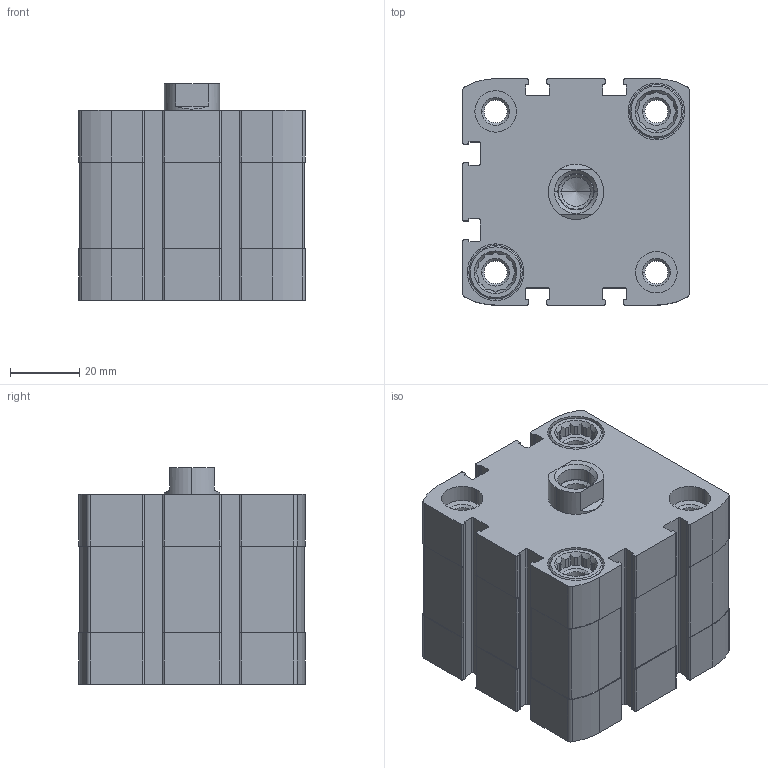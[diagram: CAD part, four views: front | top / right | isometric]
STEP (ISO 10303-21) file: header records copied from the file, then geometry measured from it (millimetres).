
FILE_DESCRIPTION (( 'STEP AP203' ), '1' );
FILE_NAME ('CCN50-10F.STEP', '2017-04-06T12:54:23', ( '' ), ( '' ), 'SwSTEP 2.0', 'SolidWorks 2016', '' );
FILE_SCHEMA (( 'CONFIG_CONTROL_DESIGN' ));
Length unit declared in the file: millimetre
Products named in the file (3): CCN-10----(Z); CCN-10_(KS); CCN50-10F
Assembly tree (2 placements, depth 2):
  CCN50-10F
    CCN-10----(Z)
    CCN-10_(KS)
Bounding box: 65.5 x 65.5 x 62.7 mm (x, y, z)
Volume: 191382.9 mm3; surface area: 50850.5 mm2
Topology: 2 solids, 2 shells, 471 faces, 1272 edges, 835 vertices
Faces by surface type: plane 219, cylinder 210, cone 42
Entity records: 15289 total; most frequent: CARTESIAN_POINT 2875, DIRECTION 2592, ORIENTED_EDGE 2540, EDGE_CURVE 1270, AXIS2_PLACEMENT_3D 944, VERTEX_POINT 835, LINE 704, VECTOR 704
